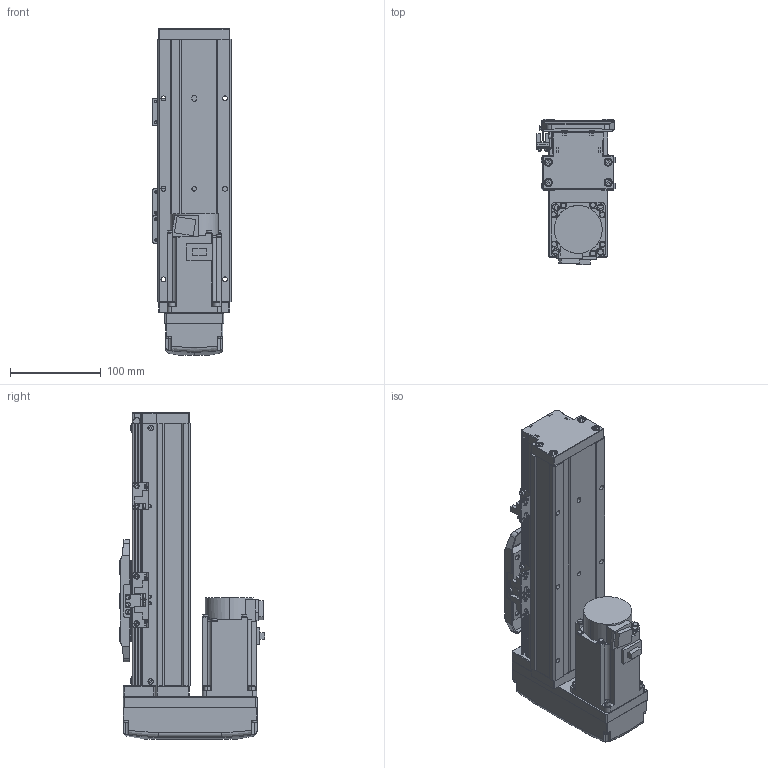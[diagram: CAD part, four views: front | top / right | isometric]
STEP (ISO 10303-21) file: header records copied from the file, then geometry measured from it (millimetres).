
FILE_DESCRIPTION (( 'STEP AP203' ), '1' );
FILE_NAME ('GTH8-100-BM-M20-C4.step', '2022-09-23T01:03:40', ( '微软用户' ), ( '微软中国' ), 'SwSTEP 2.0', 'SolidWorks 2020', '' );
FILE_SCHEMA (( 'CONFIG_CONTROL_DESIGN' ));
Length unit declared in the file: millimetre
Products named in the file (18): GTH8-100-BM-M20-C4; GTH80-013; GTH50-023; GBT 70.3-M3℅6; GBT96.1-2002 3×0.8; GTH80-022; BTH-M3X5X6; GTH80-001_100; GBT 70.1-M3℅6; hg-kn43j_-s100_; GTH80-003; GBT 70.1-M4×16; CTHA86-015-1_CTHA86-015-2; GTH80-004; GTH80-028; CTHA86-033_M40B; GTH80-006; GTH50-024
Assembly tree (57 placements, depth 2):
  GTH8-100-BM-M20-C4
    GTH80-001_100
    GTH80-003
    GTH80-004
    GTH80-006
    GTH80-013
    GBT 70.3-M3℅6  x4
    GTH80-022
    GBT 70.1-M3℅6  x14
    GBT 70.1-M4×16  x8
    GTH80-028  x2
    GTH50-024  x3
    GTH50-023  x3
    GBT96.1-2002 3×0.8  x6
    BTH-M3X5X6  x8
    hg-kn43j_-s100_
    CTHA86-015-1_CTHA86-015-2
    CTHA86-033_M40B
Bounding box: 86.9 x 160.3 x 361 mm (x, y, z)
Volume: 2248610.3 mm3; surface area: 295505.3 mm2
Topology: 59 solids, 59 shells, 2220 faces, 5115 edges, 3131 vertices
Faces by surface type: plane 1187, cylinder 591, cone 260, torus 166, bspline 8, sphere 8
Entity records: 40182 total; most frequent: CARTESIAN_POINT 7073, DIRECTION 6509, ORIENTED_EDGE 6048, EDGE_CURVE 3024, AXIS2_PLACEMENT_3D 2265, LINE 1979, VECTOR 1979, VERTEX_POINT 1906
